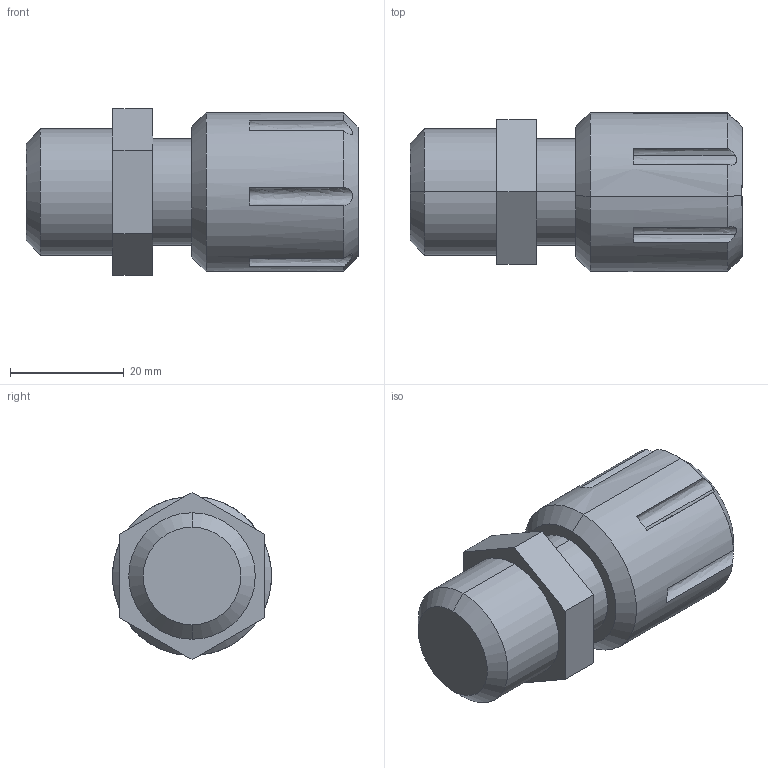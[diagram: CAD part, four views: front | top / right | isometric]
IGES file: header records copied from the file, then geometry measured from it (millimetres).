
Start section: SolidWorks IGES file using analytic representation for surfaces
Global section: file name: S:\Product Visuals\Defeatured Models and Parts Library\Parts Library IGES & STEP\Liquid Fittings\Front Mount liquid Fittings\Flaretek Compatible\30LPM\Fitting Flaretek Compatible  08.IGS; native system: SolidWorks 2012; preprocessor: SolidWorks 2012; author: rachel.dressel; date: 120926.100241; units: inch
Bounding box: 58.31 x 27.94 x 29.33 mm (x, y, z)
Volume: 27551.6 mm3; surface area: 6502.9 mm2
Topology: 1 solids, 1 shells, 40 faces, 96 edges, 62 vertices
Faces by surface type: revolution 22, plane 18
